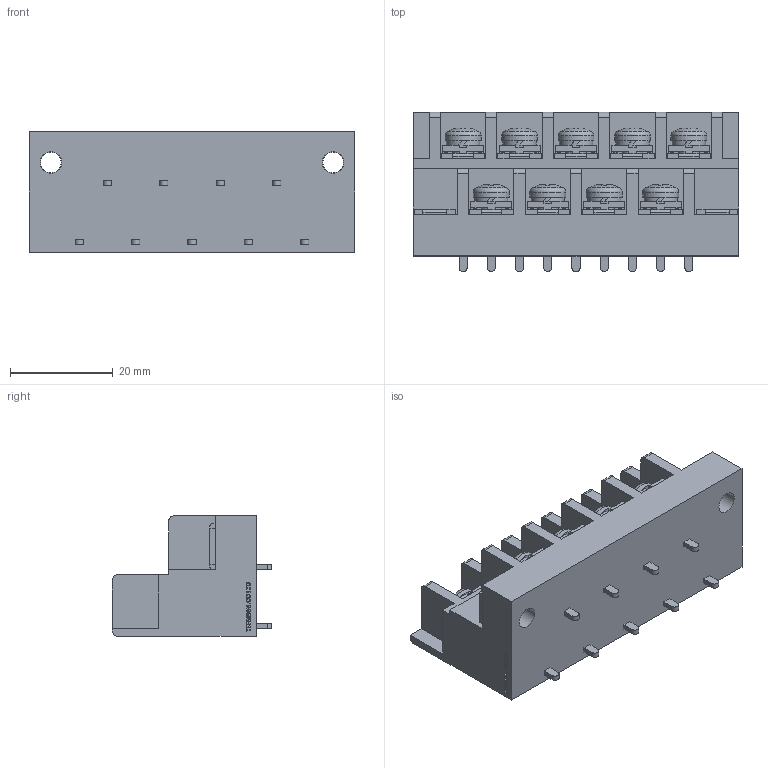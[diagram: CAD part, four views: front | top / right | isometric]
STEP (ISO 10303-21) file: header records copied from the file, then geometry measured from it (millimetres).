
FILE_DESCRIPTION(/* description */ ('Alibre Inc.'),/* implementation_level */ '2;1');
FILE_NAME(/* name */ 'export0',/* time_stamp */ '2016-08-05T14:03:56+09:00',/* author */ (''),/* organization */ (''),/* preprocessor_version */ 'ST-DEVELOPER v14',/* originating_system */ 'Alibre',/* authorisation */ '');
FILE_SCHEMA (('CONFIG_CONTROL_DESIGN'));
Length unit declared in the file: centimetre
Products named in the file (1): ID_1
Bounding box: 63.5 x 31 x 23.5 mm (x, y, z)
Volume: 26118.8 mm3; surface area: 12338.8 mm2
Topology: 1 solids, 94 shells, 2165 faces, 5666 edges, 3739 vertices
Faces by surface type: plane 1661, bspline 358, cylinder 83, cone 36, torus 18, sphere 9
Full cylindrical faces by diameter (mm): 4 x11, 4.2 x2, 7 x9
Entity records: 63388 total; most frequent: CARTESIAN_POINT 14766, ORIENTED_EDGE 11302, DIRECTION 6974, EDGE_CURVE 5615, VECTOR 4265, LINE 4265, VERTEX_POINT 3728, EDGE_LOOP 2343
